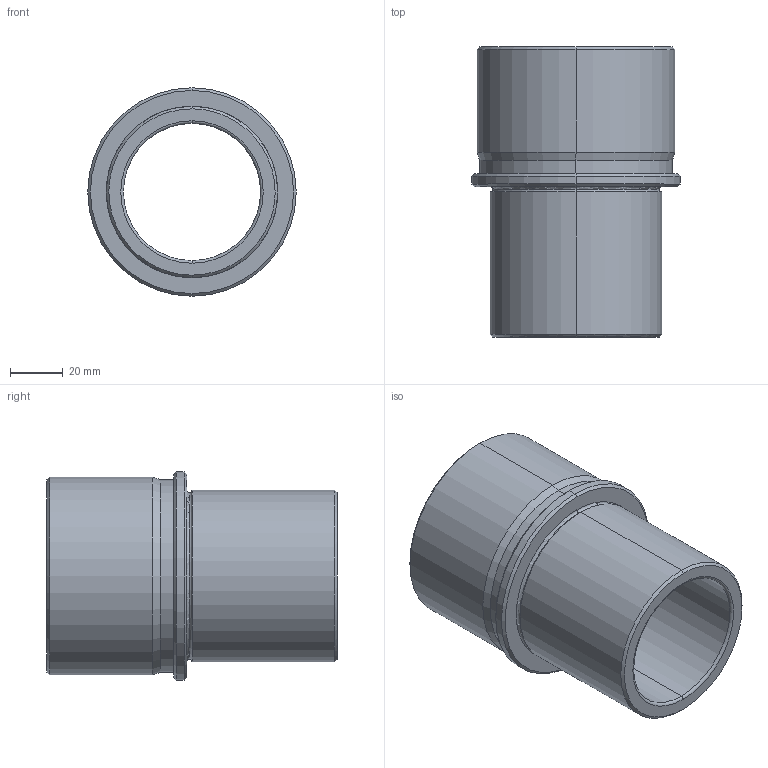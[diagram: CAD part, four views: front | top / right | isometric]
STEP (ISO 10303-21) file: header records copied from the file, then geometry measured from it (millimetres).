
FILE_DESCRIPTION(('CATIA V5 STEP Exchange'),'2;1');
FILE_NAME('C:\Users\Utente\Desktop\IO LAVORO\3D X SITO CF\X SITO\CF 450\CF 450 52x110.stp','2020-12-27T17:50:54+00:00',('none'),('none'),'CATIA Version 5 Release 20 GA (IN-10)','CATIA V5 STEP AP203','none');
FILE_SCHEMA(('CONFIG_CONTROL_DESIGN'));
Length unit declared in the file: millimetre
Products named in the file (1): CF 450 52x110
Bounding box: 79 x 110 x 79 mm (x, y, z)
Volume: 189736.6 mm3; surface area: 47473 mm2
Topology: 1 solids, 1 shells, 32 faces, 98 edges, 70 vertices
Faces by surface type: cone 10, cylinder 10, torus 8, plane 4
Entity records: 1236 total; most frequent: CARTESIAN_POINT 313, ORIENTED_EDGE 196, DIRECTION 154, AXIS2_PLACEMENT_3D 103, EDGE_CURVE 98, CIRCLE 70, VERTEX_POINT 70, EDGE_LOOP 36
